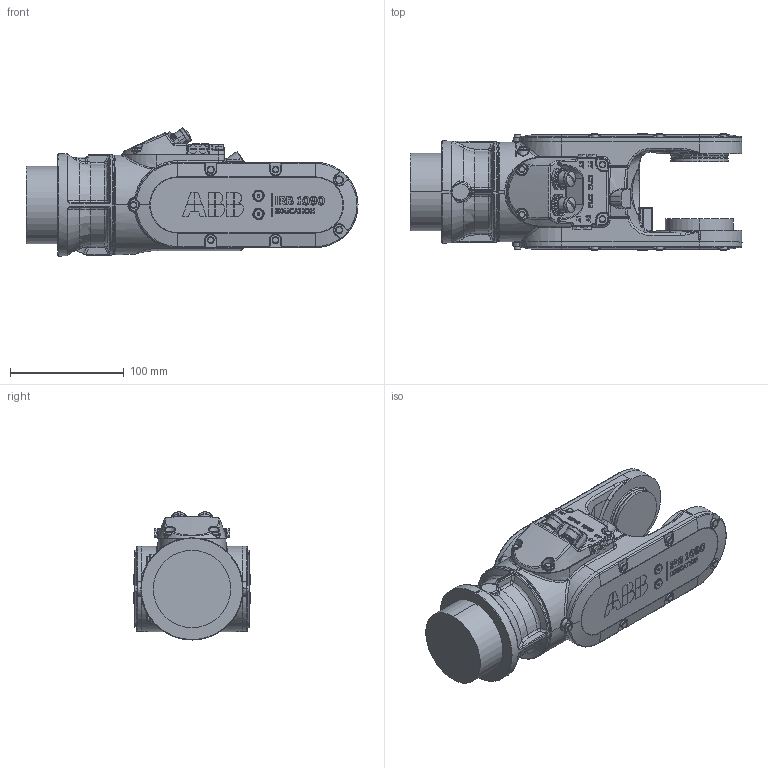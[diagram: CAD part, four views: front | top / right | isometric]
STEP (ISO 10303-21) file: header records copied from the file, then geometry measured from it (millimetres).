
FILE_DESCRIPTION (( 'STEP AP203' ), '1' );
FILE_NAME ('link4_IRB1090-3.5-580.STEP', '2023-07-10T07:24:28', ( '' ), ( '' ), 'SwSTEP 2.0', 'SolidWorks 2020', '' );
FILE_SCHEMA (( 'CONFIG_CONTROL_DESIGN' ));
Length unit declared in the file: millimetre
Products named in the file (1): link4_IRB1090-3.5-580
Bounding box: 292 x 103 x 112.71 mm (x, y, z)
Volume: 1557148.3 mm3; surface area: 128048 mm2
Topology: 1 solids, 3 shells, 2390 faces, 6169 edges, 3869 vertices
Faces by surface type: bspline 961, plane 819, cylinder 333, cone 142, torus 126, sphere 9
Entity records: 121714 total; most frequent: CARTESIAN_POINT 70975, ORIENTED_EDGE 12234, DIRECTION 7926, EDGE_CURVE 6117, VERTEX_POINT 3869, AXIS2_PLACEMENT_3D 2696, EDGE_LOOP 2546, VECTOR 2534
